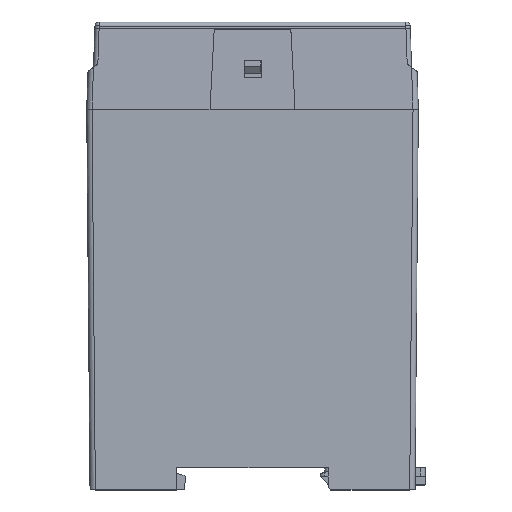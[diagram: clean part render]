
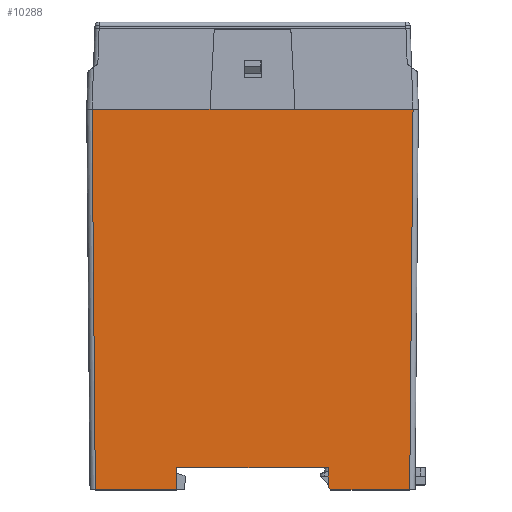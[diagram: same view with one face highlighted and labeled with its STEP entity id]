
A CAD part, top view. The second image highlights one B-rep face of the part: STEP entity #10288.
In plain terms, the highlighted planar face has unit normal (0, -0.009, 1).
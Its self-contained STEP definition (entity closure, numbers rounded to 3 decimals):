
#44 = ORIENTED_EDGE ( 'NONE', *, *, #7736, .F. ) ;
#795 = DIRECTION ( 'NONE',  ( 0., -0.009, 1. ) ) ;
#901 = DIRECTION ( 'NONE',  ( -1., 0., 0. ) ) ;
#1302 = DIRECTION ( 'NONE',  ( -0.009, 1., 0.009 ) ) ;
#1503 = VECTOR ( 'NONE', #1302, 1000. ) ;
#1854 = AXIS2_PLACEMENT_3D ( 'NONE', #31252, #795, #11683 ) ;
#2062 = VECTOR ( 'NONE', #33366, 1000. ) ;
#2200 = VECTOR ( 'NONE', #21117, 1000. ) ;
#2230 = VECTOR ( 'NONE', #3593, 1000. ) ;
#2383 = VECTOR ( 'NONE', #20441, 1000. ) ;
#3334 = LINE ( 'NONE', #25249, #28891 ) ;
#3593 = DIRECTION ( 'NONE',  ( 1., 0., 0. ) ) ;
#3985 = CARTESIAN_POINT ( 'NONE',  ( 37.75, 0.011, 22.5 ) ) ;
#4775 = CARTESIAN_POINT ( 'NONE',  ( -15.866, -55.827, 22.013 ) ) ;
#6042 = ORIENTED_EDGE ( 'NONE', *, *, #9663, .T. ) ;
#6079 = CARTESIAN_POINT ( 'NONE',  ( -17.85, -89.5, 21.719 ) ) ;
#6328 = ORIENTED_EDGE ( 'NONE', *, *, #29475, .F. ) ;
#6776 = CARTESIAN_POINT ( 'NONE',  ( 37.75, 0., 22.5 ) ) ;
#7190 = LINE ( 'NONE', #18065, #15930 ) ;
#7501 = CARTESIAN_POINT ( 'NONE',  ( -37.744, -0.67, 22.494 ) ) ;
#7736 = EDGE_CURVE ( 'NONE', #18863, #23217, #18600, .T. ) ;
#8169 = CARTESIAN_POINT ( 'NONE',  ( -36.969, -89.5, 21.719 ) ) ;
#8507 = EDGE_CURVE ( 'NONE', #11390, #21205, #33669, .T. ) ;
#8866 = CARTESIAN_POINT ( 'NONE',  ( 17.85, -84.3, 21.764 ) ) ;
#9192 = PLANE ( 'NONE',  #1854 ) ;
#9552 = CARTESIAN_POINT ( 'NONE',  ( -17.85, -84.3, 21.764 ) ) ;
#9663 = EDGE_CURVE ( 'NONE', #22119, #21205, #26707, .T. ) ;
#10288 = ADVANCED_FACE ( 'NONE', ( #22926 ), #9192, .T. ) ;
#10340 = CARTESIAN_POINT ( 'NONE',  ( -37.75, 0., 22.5 ) ) ;
#11342 = ORIENTED_EDGE ( 'NONE', *, *, #31216, .T. ) ;
#11390 = VERTEX_POINT ( 'NONE', #25151 ) ;
#11439 = EDGE_CURVE ( 'NONE', #34032, #14783, #17488, .T. ) ;
#11683 = DIRECTION ( 'NONE',  ( 0., -1., -0.009 ) ) ;
#12651 = ORIENTED_EDGE ( 'NONE', *, *, #8507, .F. ) ;
#12717 = CARTESIAN_POINT ( 'NONE',  ( -10., 0., 22.5 ) ) ;
#13149 = DIRECTION ( 'NONE',  ( 0.713, -0.701, -0.006 ) ) ;
#14783 = VERTEX_POINT ( 'NONE', #8169 ) ;
#15161 = LINE ( 'NONE', #28529, #2230 ) ;
#15930 = VECTOR ( 'NONE', #30894, 1000. ) ;
#15965 = EDGE_CURVE ( 'NONE', #19798, #32995, #3334, .T. ) ;
#16655 = VERTEX_POINT ( 'NONE', #9552 ) ;
#17488 = LINE ( 'NONE', #6079, #22648 ) ;
#17705 = LINE ( 'NONE', #20730, #1503 ) ;
#18065 = CARTESIAN_POINT ( 'NONE',  ( -17.85, -84.3, 21.764 ) ) ;
#18080 = ORIENTED_EDGE ( 'NONE', *, *, #30518, .T. ) ;
#18369 = DIRECTION ( 'NONE',  ( 0.009, -1., -0.009 ) ) ;
#18600 = LINE ( 'NONE', #34274, #2200 ) ;
#18613 = CARTESIAN_POINT ( 'NONE',  ( 10., 0., 22.5 ) ) ;
#18863 = VERTEX_POINT ( 'NONE', #10340 ) ;
#19094 = CARTESIAN_POINT ( 'NONE',  ( -17.895, -89.5, 21.719 ) ) ;
#19798 = VERTEX_POINT ( 'NONE', #18613 ) ;
#20119 = CARTESIAN_POINT ( 'NONE',  ( 17.891, -89., 21.723 ) ) ;
#20321 = CARTESIAN_POINT ( 'NONE',  ( 38.264, -89.5, 21.719 ) ) ;
#20441 = DIRECTION ( 'NONE',  ( 1., 0., 0. ) ) ;
#20730 = CARTESIAN_POINT ( 'NONE',  ( 17.851, -84.405, 21.763 ) ) ;
#21117 = DIRECTION ( 'NONE',  ( 1., 0., 0. ) ) ;
#21205 = VERTEX_POINT ( 'NONE', #35202 ) ;
#21309 = ORIENTED_EDGE ( 'NONE', *, *, #11439, .F. ) ;
#22119 = VERTEX_POINT ( 'NONE', #20119 ) ;
#22341 = ORIENTED_EDGE ( 'NONE', *, *, #23927, .F. ) ;
#22648 = VECTOR ( 'NONE', #901, 1000. ) ;
#22926 = FACE_OUTER_BOUND ( 'NONE', #23842, .T. ) ;
#23117 = CARTESIAN_POINT ( 'NONE',  ( -15., 0., 22.5 ) ) ;
#23217 = VERTEX_POINT ( 'NONE', #12717 ) ;
#23482 = VECTOR ( 'NONE', #13149, 1000. ) ;
#23842 = EDGE_LOOP ( 'NONE', ( #6328, #6042, #12651, #18080, #31424, #22341, #44, #11342, #21309, #32239, #29909 ) ) ;
#23927 = EDGE_CURVE ( 'NONE', #23217, #19798, #25767, .T. ) ;
#25003 = EDGE_CURVE ( 'NONE', #16655, #27007, #15161, .T. ) ;
#25071 = DIRECTION ( 'NONE',  ( 1., 0., 0. ) ) ;
#25131 = DIRECTION ( 'NONE',  ( -1., 0., 0. ) ) ;
#25151 = CARTESIAN_POINT ( 'NONE',  ( 36.969, -89.5, 21.719 ) ) ;
#25249 = CARTESIAN_POINT ( 'NONE',  ( 49., 0., 22.5 ) ) ;
#25767 = LINE ( 'NONE', #23117, #2383 ) ;
#25858 = EDGE_CURVE ( 'NONE', #34032, #16655, #7190, .T. ) ;
#26707 = LINE ( 'NONE', #4775, #23482 ) ;
#27007 = VERTEX_POINT ( 'NONE', #8866 ) ;
#28529 = CARTESIAN_POINT ( 'NONE',  ( -39., -84.3, 21.764 ) ) ;
#28891 = VECTOR ( 'NONE', #25071, 1000. ) ;
#29376 = VECTOR ( 'NONE', #18369, 1000. ) ;
#29475 = EDGE_CURVE ( 'NONE', #22119, #27007, #17705, .T. ) ;
#29909 = ORIENTED_EDGE ( 'NONE', *, *, #25003, .T. ) ;
#30518 = EDGE_CURVE ( 'NONE', #11390, #32995, #30710, .T. ) ;
#30710 = LINE ( 'NONE', #3985, #2062 ) ;
#30894 = DIRECTION ( 'NONE',  ( 0.009, 1., 0.009 ) ) ;
#31216 = EDGE_CURVE ( 'NONE', #18863, #14783, #34202, .T. ) ;
#31252 = CARTESIAN_POINT ( 'NONE',  ( 39., 0., 22.5 ) ) ;
#31424 = ORIENTED_EDGE ( 'NONE', *, *, #15965, .F. ) ;
#32239 = ORIENTED_EDGE ( 'NONE', *, *, #25858, .T. ) ;
#32995 = VERTEX_POINT ( 'NONE', #6776 ) ;
#33366 = DIRECTION ( 'NONE',  ( 0.009, 1., 0.009 ) ) ;
#33669 = LINE ( 'NONE', #20321, #35102 ) ;
#34032 = VERTEX_POINT ( 'NONE', #19094 ) ;
#34202 = LINE ( 'NONE', #7501, #29376 ) ;
#34274 = CARTESIAN_POINT ( 'NONE',  ( -49., 0., 22.5 ) ) ;
#35102 = VECTOR ( 'NONE', #25131, 1000. ) ;
#35202 = CARTESIAN_POINT ( 'NONE',  ( 18.4, -89.5, 21.719 ) ) ;
